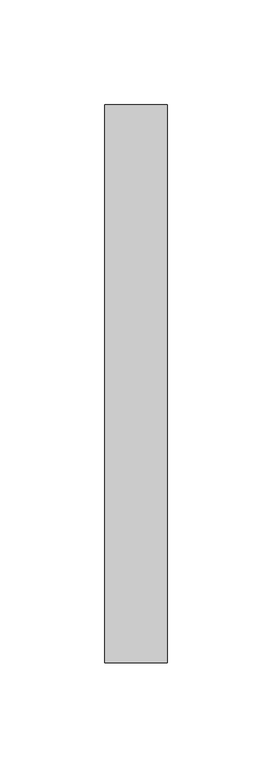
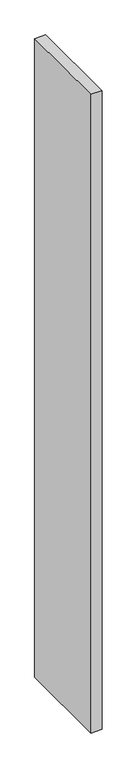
"""IFC4 building model written with IfcOpenShell, lengths in millimetres: furniture geometry, Divisoria_Lateral Fechada : Divisoria_Lateral Fechada_130x180."""

from ifc_helpers import new_model, si_unit, frame, origin, place, context, project, spatial, polyline, outline, extrude, source, transform, mapped, element, save


def furniture_f3a46036(model_context):
    return source(origin(), model_context, "Body", "SweptSolid", [
        extrude(outline(polyline([(59.7003264, -50.0), (29.7003264, -50.0), (29.7003264, 217.1372225), (59.7003264, 217.1372225), (59.7003264, -50.0)])), frame((0.0, 0.0, 50.0), z_axis=(0.0, 0.0, 1.0), x_axis=(1.0, 0.0, 0.0)), (0.0, 0.0, 1.0), 1850.0),
    ])


if __name__ == "__main__":
    model = new_model("IFC4")
    model_context = context("Model", 3, world=origin())
    ifc_project = project(units=[si_unit("LENGTHUNIT", "METRE", prefix="MILLI")], contexts=[model_context])
    site = spatial("IfcSite", under=ifc_project)
    building = spatial("IfcBuilding", under=site)
    placement = place(None, origin())
    furniture_shape = furniture_f3a46036(model_context)
    element("IfcFurniture", 1, ObjectType="Divisoria_Lateral Fechada : Divisoria_Lateral Fechada_130x180", at=placement, inside=building, context=model_context, shape_type="MappedRepresentation", body=[
        mapped(furniture_shape, transform((0.0, 0.0, 0.0), x_axis=(1.0, 0.0, 0.0), y_axis=(0.0, 1.0, 0.0), z_axis=(0.0, 0.0, 1.0))),
    ])
    save(model, "model.ifc")
